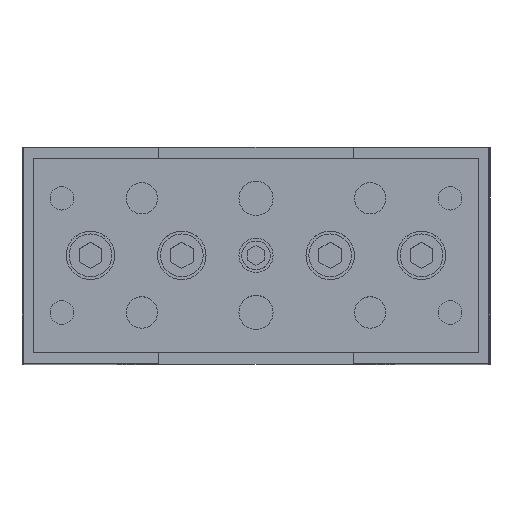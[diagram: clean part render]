
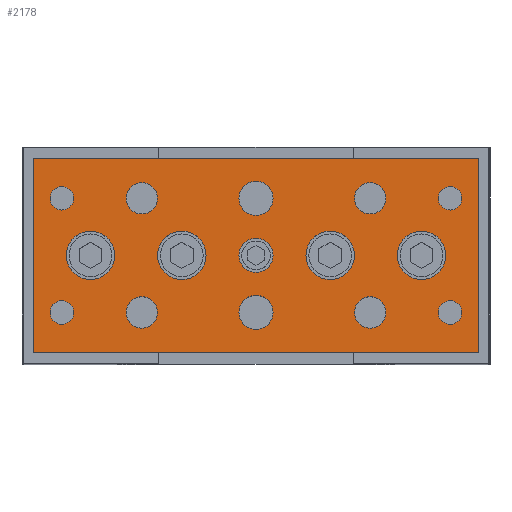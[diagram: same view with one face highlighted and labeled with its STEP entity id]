
A CAD part, top view. The second image highlights one B-rep face of the part: STEP entity #2178.
In plain terms, the highlighted planar face has unit normal (0, 0, 1).
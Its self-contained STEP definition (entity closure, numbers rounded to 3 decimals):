
#139=CARTESIAN_POINT('',(-17.25,10.0,246.0));
#140=VERTEX_POINT('',#139);
#141=CARTESIAN_POINT('',(-20.0,10.0,246.0));
#142=DIRECTION('',(0.0,0.0,-1.0));
#143=DIRECTION('',(-1.0,0.0,0.0));
#144=AXIS2_PLACEMENT_3D('',#141,#142,#143);
#145=CIRCLE('',#144,2.75);
#146=EDGE_CURVE('',#140,#140,#145,.T.);
#249=CARTESIAN_POINT('',(22.75,10.0,246.0));
#250=VERTEX_POINT('',#249);
#251=CARTESIAN_POINT('',(20.,10.0,246.0));
#252=DIRECTION('',(0.0,0.0,-1.0));
#253=DIRECTION('',(-1.0,0.0,0.0));
#254=AXIS2_PLACEMENT_3D('',#251,#252,#253);
#255=CIRCLE('',#254,2.75);
#256=EDGE_CURVE('',#250,#250,#255,.T.);
#359=CARTESIAN_POINT('',(-17.25,-10.0,246.0));
#360=VERTEX_POINT('',#359);
#361=CARTESIAN_POINT('',(-20.0,-10.0,246.0));
#362=DIRECTION('',(0.0,0.0,-1.0));
#363=DIRECTION('',(-1.0,0.0,0.0));
#364=AXIS2_PLACEMENT_3D('',#361,#362,#363);
#365=CIRCLE('',#364,2.75);
#366=EDGE_CURVE('',#360,#360,#365,.T.);
#469=CARTESIAN_POINT('',(22.75,-10.0,246.0));
#470=VERTEX_POINT('',#469);
#471=CARTESIAN_POINT('',(20.,-10.0,246.0));
#472=DIRECTION('',(0.0,0.0,-1.0));
#473=DIRECTION('',(-1.0,0.0,0.0));
#474=AXIS2_PLACEMENT_3D('',#471,#472,#473);
#475=CIRCLE('',#474,2.75);
#476=EDGE_CURVE('',#470,#470,#475,.T.);
#500=CARTESIAN_POINT('',(3.,-10.0,246.0));
#501=VERTEX_POINT('',#500);
#502=CARTESIAN_POINT('',(0.0,-10.0,246.0));
#503=DIRECTION('',(0.0,0.0,-1.0));
#504=DIRECTION('',(-1.0,0.0,0.0));
#505=AXIS2_PLACEMENT_3D('',#502,#503,#504);
#506=CIRCLE('',#505,3.);
#507=EDGE_CURVE('',#501,#501,#506,.T.);
#537=CARTESIAN_POINT('',(3.,10.0,246.0));
#538=VERTEX_POINT('',#537);
#539=CARTESIAN_POINT('',(0.0,10.0,246.0));
#540=DIRECTION('',(0.0,0.0,-1.0));
#541=DIRECTION('',(-1.0,0.0,0.0));
#542=AXIS2_PLACEMENT_3D('',#539,#540,#541);
#543=CIRCLE('',#542,3.);
#544=EDGE_CURVE('',#538,#538,#543,.T.);
#595=CARTESIAN_POINT('',(-31.933,10.0,246.0));
#596=VERTEX_POINT('',#595);
#597=CARTESIAN_POINT('',(-34.0,10.0,246.0));
#598=DIRECTION('',(0.0,0.0,-1.0));
#599=DIRECTION('',(1.0,0.0,0.0));
#600=AXIS2_PLACEMENT_3D('',#597,#598,#599);
#601=CIRCLE('',#600,2.067);
#602=EDGE_CURVE('',#596,#596,#601,.T.);
#644=CARTESIAN_POINT('',(36.067,10.0,246.0));
#645=VERTEX_POINT('',#644);
#646=CARTESIAN_POINT('',(34.0,10.0,246.0));
#647=DIRECTION('',(0.0,0.0,-1.0));
#648=DIRECTION('',(1.0,0.0,0.0));
#649=AXIS2_PLACEMENT_3D('',#646,#647,#648);
#650=CIRCLE('',#649,2.067);
#651=EDGE_CURVE('',#645,#645,#650,.T.);
#693=CARTESIAN_POINT('',(-31.933,-10.0,246.0));
#694=VERTEX_POINT('',#693);
#695=CARTESIAN_POINT('',(-34.0,-10.0,246.0));
#696=DIRECTION('',(0.0,0.0,-1.0));
#697=DIRECTION('',(1.0,0.0,0.0));
#698=AXIS2_PLACEMENT_3D('',#695,#696,#697);
#699=CIRCLE('',#698,2.067);
#700=EDGE_CURVE('',#694,#694,#699,.T.);
#742=CARTESIAN_POINT('',(36.067,-10.0,246.0));
#743=VERTEX_POINT('',#742);
#744=CARTESIAN_POINT('',(34.0,-10.0,246.0));
#745=DIRECTION('',(0.0,0.0,-1.0));
#746=DIRECTION('',(1.0,0.0,0.0));
#747=AXIS2_PLACEMENT_3D('',#744,#745,#746);
#748=CIRCLE('',#747,2.067);
#749=EDGE_CURVE('',#743,#743,#748,.T.);
#1398=CARTESIAN_POINT('',(3.,0.,246.0));
#1399=VERTEX_POINT('',#1398);
#1400=CARTESIAN_POINT('',(0.0,0.0,246.0));
#1401=DIRECTION('',(0.0,0.0,-1.0));
#1402=DIRECTION('',(-1.0,0.0,0.0));
#1403=AXIS2_PLACEMENT_3D('',#1400,#1401,#1402);
#1404=CIRCLE('',#1403,3.);
#1405=EDGE_CURVE('',#1399,#1399,#1404,.T.);
#1466=CARTESIAN_POINT('',(17.25,0.,246.0));
#1467=VERTEX_POINT('',#1466);
#1468=CARTESIAN_POINT('',(13.,0.0,246.0));
#1469=DIRECTION('',(0.0,0.0,-1.0));
#1470=DIRECTION('',(-1.0,0.0,0.0));
#1471=AXIS2_PLACEMENT_3D('',#1468,#1469,#1470);
#1472=CIRCLE('',#1471,4.25);
#1473=EDGE_CURVE('',#1467,#1467,#1472,.T.);
#1534=CARTESIAN_POINT('',(-8.75,0.,246.0));
#1535=VERTEX_POINT('',#1534);
#1536=CARTESIAN_POINT('',(-13.,0.0,246.0));
#1537=DIRECTION('',(0.0,0.0,-1.0));
#1538=DIRECTION('',(-1.0,0.0,0.0));
#1539=AXIS2_PLACEMENT_3D('',#1536,#1537,#1538);
#1540=CIRCLE('',#1539,4.25);
#1541=EDGE_CURVE('',#1535,#1535,#1540,.T.);
#1602=CARTESIAN_POINT('',(33.25,0.,246.0));
#1603=VERTEX_POINT('',#1602);
#1604=CARTESIAN_POINT('',(29.,0.,246.0));
#1605=DIRECTION('',(0.0,0.0,-1.0));
#1606=DIRECTION('',(-1.0,0.0,0.0));
#1607=AXIS2_PLACEMENT_3D('',#1604,#1605,#1606);
#1608=CIRCLE('',#1607,4.25);
#1609=EDGE_CURVE('',#1603,#1603,#1608,.T.);
#1670=CARTESIAN_POINT('',(-24.75,0.,246.0));
#1671=VERTEX_POINT('',#1670);
#1672=CARTESIAN_POINT('',(-29.,0.,246.0));
#1673=DIRECTION('',(0.0,0.0,-1.0));
#1674=DIRECTION('',(-1.0,0.0,0.0));
#1675=AXIS2_PLACEMENT_3D('',#1672,#1673,#1674);
#1676=CIRCLE('',#1675,4.25);
#1677=EDGE_CURVE('',#1671,#1671,#1676,.T.);
#2094=CARTESIAN_POINT('',(39.0,0.0,246.0));
#2095=DIRECTION('',(0.0,0.0,1.0));
#2096=DIRECTION('',(1.0,0.0,0.0));
#2097=AXIS2_PLACEMENT_3D('',#2094,#2095,#2096);
#2098=PLANE('',#2097);
#2099=CARTESIAN_POINT('',(39.0,17.0,246.0));
#2100=VERTEX_POINT('',#2099);
#2101=CARTESIAN_POINT('',(-39.0,17.0,246.0));
#2102=VERTEX_POINT('',#2101);
#2103=CARTESIAN_POINT('',(39.0,17.0,246.0));
#2104=DIRECTION('',(-1.0,0.0,0.0));
#2105=VECTOR('',#2104,78.0);
#2106=LINE('',#2103,#2105);
#2107=EDGE_CURVE('',#2100,#2102,#2106,.T.);
#2108=ORIENTED_EDGE('',*,*,#2107,.T.);
#2109=CARTESIAN_POINT('',(-39.0,-17.0,246.0));
#2110=VERTEX_POINT('',#2109);
#2111=CARTESIAN_POINT('',(-39.0,17.0,246.0));
#2112=DIRECTION('',(0.0,-1.0,0.0));
#2113=VECTOR('',#2112,34.0);
#2114=LINE('',#2111,#2113);
#2115=EDGE_CURVE('',#2102,#2110,#2114,.T.);
#2116=ORIENTED_EDGE('',*,*,#2115,.T.);
#2117=CARTESIAN_POINT('',(39.0,-17.0,246.0));
#2118=VERTEX_POINT('',#2117);
#2119=CARTESIAN_POINT('',(-39.0,-17.0,246.0));
#2120=DIRECTION('',(1.0,0.0,0.0));
#2121=VECTOR('',#2120,78.0);
#2122=LINE('',#2119,#2121);
#2123=EDGE_CURVE('',#2110,#2118,#2122,.T.);
#2124=ORIENTED_EDGE('',*,*,#2123,.T.);
#2125=CARTESIAN_POINT('',(39.0,-17.0,246.0));
#2126=DIRECTION('',(0.0,1.0,0.0));
#2127=VECTOR('',#2126,34.0);
#2128=LINE('',#2125,#2127);
#2129=EDGE_CURVE('',#2118,#2100,#2128,.T.);
#2130=ORIENTED_EDGE('',*,*,#2129,.T.);
#2131=EDGE_LOOP('',(#2108,#2116,#2124,#2130));
#2132=FACE_OUTER_BOUND('',#2131,.T.);
#2133=ORIENTED_EDGE('',*,*,#146,.T.);
#2134=EDGE_LOOP('',(#2133));
#2135=FACE_BOUND('',#2134,.T.);
#2136=ORIENTED_EDGE('',*,*,#256,.T.);
#2137=EDGE_LOOP('',(#2136));
#2138=FACE_BOUND('',#2137,.T.);
#2139=ORIENTED_EDGE('',*,*,#366,.T.);
#2140=EDGE_LOOP('',(#2139));
#2141=FACE_BOUND('',#2140,.T.);
#2142=ORIENTED_EDGE('',*,*,#476,.T.);
#2143=EDGE_LOOP('',(#2142));
#2144=FACE_BOUND('',#2143,.T.);
#2145=ORIENTED_EDGE('',*,*,#507,.T.);
#2146=EDGE_LOOP('',(#2145));
#2147=FACE_BOUND('',#2146,.T.);
#2148=ORIENTED_EDGE('',*,*,#544,.T.);
#2149=EDGE_LOOP('',(#2148));
#2150=FACE_BOUND('',#2149,.T.);
#2151=ORIENTED_EDGE('',*,*,#602,.T.);
#2152=EDGE_LOOP('',(#2151));
#2153=FACE_BOUND('',#2152,.T.);
#2154=ORIENTED_EDGE('',*,*,#651,.T.);
#2155=EDGE_LOOP('',(#2154));
#2156=FACE_BOUND('',#2155,.T.);
#2157=ORIENTED_EDGE('',*,*,#700,.T.);
#2158=EDGE_LOOP('',(#2157));
#2159=FACE_BOUND('',#2158,.T.);
#2160=ORIENTED_EDGE('',*,*,#749,.T.);
#2161=EDGE_LOOP('',(#2160));
#2162=FACE_BOUND('',#2161,.T.);
#2163=ORIENTED_EDGE('',*,*,#1677,.T.);
#2164=EDGE_LOOP('',(#2163));
#2165=FACE_BOUND('',#2164,.T.);
#2166=ORIENTED_EDGE('',*,*,#1609,.T.);
#2167=EDGE_LOOP('',(#2166));
#2168=FACE_BOUND('',#2167,.T.);
#2169=ORIENTED_EDGE('',*,*,#1541,.T.);
#2170=EDGE_LOOP('',(#2169));
#2171=FACE_BOUND('',#2170,.T.);
#2172=ORIENTED_EDGE('',*,*,#1473,.T.);
#2173=EDGE_LOOP('',(#2172));
#2174=FACE_BOUND('',#2173,.T.);
#2175=ORIENTED_EDGE('',*,*,#1405,.T.);
#2176=EDGE_LOOP('',(#2175));
#2177=FACE_BOUND('',#2176,.T.);
#2178=ADVANCED_FACE('',(#2132,#2135,#2138,#2141,#2144,#2147,#2150,#2153,#2156,#2159,#2162,#2165,#2168,#2171,#2174,#2177),#2098,.T.);
